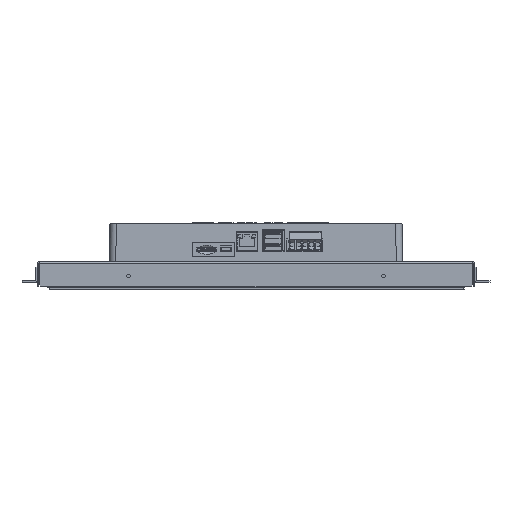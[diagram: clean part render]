
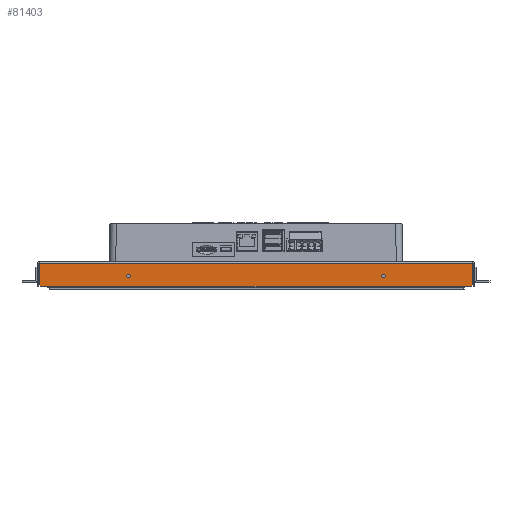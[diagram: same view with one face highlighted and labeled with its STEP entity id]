
A CAD part, front view. The second image highlights one B-rep face of the part: STEP entity #81403.
In plain terms, the highlighted planar face has unit normal (0, -1, 0).
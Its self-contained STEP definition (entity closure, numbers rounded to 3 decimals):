
#2575 = CARTESIAN_POINT ( 'NONE',  ( 169.8, -133.5, -49.5 ) ) ;
#5221 = PLANE ( 'NONE',  #131778 ) ;
#5976 = FACE_OUTER_BOUND ( 'NONE', #95319, .T. ) ;
#6267 = VERTEX_POINT ( 'NONE', #64252 ) ;
#6428 = VERTEX_POINT ( 'NONE', #78688 ) ;
#8448 = ORIENTED_EDGE ( 'NONE', *, *, #32519, .F. ) ;
#8704 = VECTOR ( 'NONE', #19042, 1000. ) ;
#13615 = EDGE_CURVE ( 'NONE', #107780, #84089, #59121, .T. ) ;
#16632 = LINE ( 'NONE', #2575, #46032 ) ;
#16700 = DIRECTION ( 'NONE',  ( 1., 0., 0. ) ) ;
#16891 = ORIENTED_EDGE ( 'NONE', *, *, #13615, .T. ) ;
#19042 = DIRECTION ( 'NONE',  ( 0., 0., 1. ) ) ;
#20834 = CARTESIAN_POINT ( 'NONE',  ( -94.15, -133.5, -124.15 ) ) ;
#27937 = CARTESIAN_POINT ( 'NONE',  ( 94.15, -133.5, -124.15 ) ) ;
#28776 = FACE_BOUND ( 'NONE', #71417, .T. ) ;
#32519 = EDGE_CURVE ( 'NONE', #79650, #79650, #100453, .T. ) ;
#32745 = AXIS2_PLACEMENT_3D ( 'NONE', #87418, #112476, #16700 ) ;
#34632 = CARTESIAN_POINT ( 'NONE',  ( 169.8, -133.5, -48.5 ) ) ;
#35990 = DIRECTION ( 'NONE',  ( 1., 0., 0. ) ) ;
#40423 = AXIS2_PLACEMENT_3D ( 'NONE', #154528, #143501, #35990 ) ;
#43480 = EDGE_CURVE ( 'NONE', #153931, #47150, #52281, .T. ) ;
#44006 = EDGE_LOOP ( 'NONE', ( #94644 ) ) ;
#44913 = ORIENTED_EDGE ( 'NONE', *, *, #78152, .F. ) ;
#45436 = EDGE_CURVE ( 'NONE', #61703, #6267, #137090, .T. ) ;
#46032 = VECTOR ( 'NONE', #76337, 1000. ) ;
#47150 = VERTEX_POINT ( 'NONE', #34632 ) ;
#49805 = CARTESIAN_POINT ( 'NONE',  ( 169.8, -133.5, -31.7 ) ) ;
#52281 = LINE ( 'NONE', #27937, #58194 ) ;
#53115 = DIRECTION ( 'NONE',  ( 0., -1., 0. ) ) ;
#53544 = VECTOR ( 'NONE', #114292, 1000. ) ;
#58172 = CARTESIAN_POINT ( 'NONE',  ( -169.8, -133.5, -48.5 ) ) ;
#58194 = VECTOR ( 'NONE', #136240, 1000. ) ;
#59121 = LINE ( 'NONE', #120306, #141948 ) ;
#59692 = CARTESIAN_POINT ( 'NONE',  ( 168.8, -133.5, -49.5 ) ) ;
#61703 = VERTEX_POINT ( 'NONE', #58172 ) ;
#64252 = CARTESIAN_POINT ( 'NONE',  ( -168.8, -133.5, -49.5 ) ) ;
#65683 = CARTESIAN_POINT ( 'NONE',  ( 0., -133.5, -30. ) ) ;
#71417 = EDGE_LOOP ( 'NONE', ( #8448 ) ) ;
#75199 = EDGE_CURVE ( 'NONE', #6428, #6428, #75546, .T. ) ;
#75546 = CIRCLE ( 'NONE', #40423, 1.5 ) ;
#76337 = DIRECTION ( 'NONE',  ( 0., 0., -1. ) ) ;
#77809 = ORIENTED_EDGE ( 'NONE', *, *, #124746, .F. ) ;
#78152 = EDGE_CURVE ( 'NONE', #107780, #47150, #16632, .T. ) ;
#78688 = CARTESIAN_POINT ( 'NONE',  ( -98.5, -133.5, -41.5 ) ) ;
#79650 = VERTEX_POINT ( 'NONE', #114172 ) ;
#81403 = ADVANCED_FACE ( 'NONE', ( #28776, #112766, #5976 ), #5221, .T. ) ;
#84089 = VERTEX_POINT ( 'NONE', #154863 ) ;
#87418 = CARTESIAN_POINT ( 'NONE',  ( 100., -133.5, -41.5 ) ) ;
#87723 = DIRECTION ( 'NONE',  ( -1., 0., 0. ) ) ;
#94644 = ORIENTED_EDGE ( 'NONE', *, *, #75199, .F. ) ;
#95319 = EDGE_LOOP ( 'NONE', ( #77809, #107342, #100841, #117793, #44913, #16891 ) ) ;
#100453 = CIRCLE ( 'NONE', #32745, 1.5 ) ;
#100841 = ORIENTED_EDGE ( 'NONE', *, *, #151427, .F. ) ;
#107342 = ORIENTED_EDGE ( 'NONE', *, *, #45436, .T. ) ;
#107780 = VERTEX_POINT ( 'NONE', #49805 ) ;
#112476 = DIRECTION ( 'NONE',  ( 0., -1., 0. ) ) ;
#112766 = FACE_BOUND ( 'NONE', #44006, .T. ) ;
#113262 = LINE ( 'NONE', #136058, #8704 ) ;
#114172 = CARTESIAN_POINT ( 'NONE',  ( 101.5, -133.5, -41.5 ) ) ;
#114292 = DIRECTION ( 'NONE',  ( 0.707, 0., -0.707 ) ) ;
#114301 = DIRECTION ( 'NONE',  ( 0., 0., -1. ) ) ;
#115686 = CARTESIAN_POINT ( 'NONE',  ( -169.8, -133.5, -49.5 ) ) ;
#117793 = ORIENTED_EDGE ( 'NONE', *, *, #43480, .T. ) ;
#119765 = VECTOR ( 'NONE', #87723, 1000. ) ;
#120306 = CARTESIAN_POINT ( 'NONE',  ( 0., -133.5, -31.7 ) ) ;
#124746 = EDGE_CURVE ( 'NONE', #61703, #84089, #113262, .T. ) ;
#127476 = LINE ( 'NONE', #115686, #119765 ) ;
#131778 = AXIS2_PLACEMENT_3D ( 'NONE', #65683, #53115, #114301 ) ;
#136058 = CARTESIAN_POINT ( 'NONE',  ( -169.8, -133.5, -31.2 ) ) ;
#136240 = DIRECTION ( 'NONE',  ( 0.707, 0., 0.707 ) ) ;
#137090 = LINE ( 'NONE', #20834, #53544 ) ;
#141948 = VECTOR ( 'NONE', #143065, 1000. ) ;
#143065 = DIRECTION ( 'NONE',  ( -1., 0., 0. ) ) ;
#143501 = DIRECTION ( 'NONE',  ( 0., -1., 0. ) ) ;
#151427 = EDGE_CURVE ( 'NONE', #153931, #6267, #127476, .T. ) ;
#153931 = VERTEX_POINT ( 'NONE', #59692 ) ;
#154528 = CARTESIAN_POINT ( 'NONE',  ( -100., -133.5, -41.5 ) ) ;
#154863 = CARTESIAN_POINT ( 'NONE',  ( -169.8, -133.5, -31.7 ) ) ;
